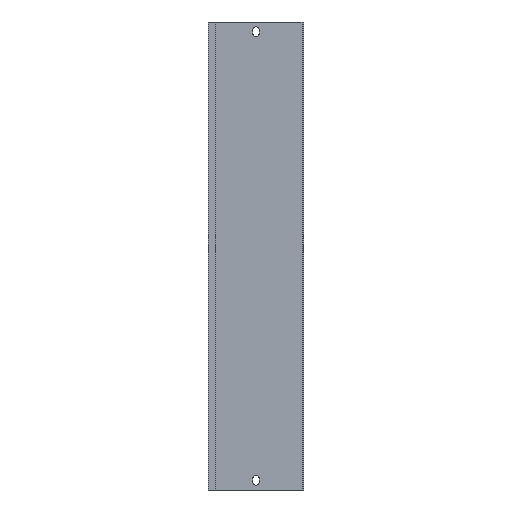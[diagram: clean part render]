
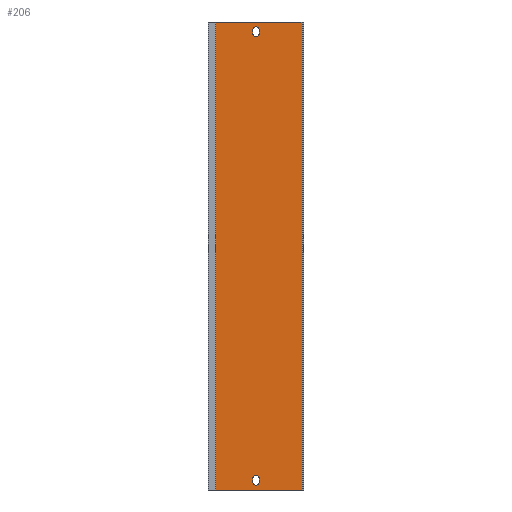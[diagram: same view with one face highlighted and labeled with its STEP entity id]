
A CAD part, front view. The second image highlights one B-rep face of the part: STEP entity #206.
In plain terms, the highlighted planar face has unit normal (0, -1, 0).
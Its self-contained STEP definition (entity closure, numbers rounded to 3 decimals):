
#16 = LINE ( 'NONE', #18, #289 ) ;
#18 = CARTESIAN_POINT ( 'NONE',  ( -8., 11., 0. ) ) ;
#23 = VECTOR ( 'NONE', #702, 1000. ) ;
#26 = CARTESIAN_POINT ( 'NONE',  ( 41., 11., 467.5 ) ) ;
#27 = ORIENTED_EDGE ( 'NONE', *, *, #690, .T. ) ;
#32 = ORIENTED_EDGE ( 'NONE', *, *, #404, .T. ) ;
#38 = CARTESIAN_POINT ( 'NONE',  ( -8., 11., 0. ) ) ;
#46 = DIRECTION ( 'NONE',  ( 0., 1., 0. ) ) ;
#53 = DIRECTION ( 'NONE',  ( 0., 0., 1. ) ) ;
#55 = VERTEX_POINT ( 'NONE', #297 ) ;
#56 = VERTEX_POINT ( 'NONE', #643 ) ;
#57 = DIRECTION ( 'NONE',  ( 0., 0., 1. ) ) ;
#70 = CARTESIAN_POINT ( 'NONE',  ( 41., 11., 464. ) ) ;
#74 = DIRECTION ( 'NONE',  ( 0., 0., 1. ) ) ;
#83 = DIRECTION ( 'NONE',  ( 1., 0., 0. ) ) ;
#91 = EDGE_LOOP ( 'NONE', ( #782, #32, #239, #776, #431, #909, #876, #863 ) ) ;
#92 = VERTEX_POINT ( 'NONE', #652 ) ;
#100 = FACE_BOUND ( 'NONE', #1037, .T. ) ;
#102 = VERTEX_POINT ( 'NONE', #729 ) ;
#103 = DIRECTION ( 'NONE',  ( 0., 1., 0. ) ) ;
#110 = VERTEX_POINT ( 'NONE', #336 ) ;
#122 = CARTESIAN_POINT ( 'NONE',  ( 88.5, 11., 479. ) ) ;
#125 = VECTOR ( 'NONE', #443, 1000. ) ;
#155 = DIRECTION ( 'NONE',  ( 0., 1., 0. ) ) ;
#157 = VERTEX_POINT ( 'NONE', #70 ) ;
#166 = VERTEX_POINT ( 'NONE', #818 ) ;
#172 = CARTESIAN_POINT ( 'NONE',  ( 37.5, 11., 470.5 ) ) ;
#179 = EDGE_CURVE ( 'NONE', #995, #330, #415, .T. ) ;
#187 = DIRECTION ( 'NONE',  ( 0., -1., 0. ) ) ;
#189 = VECTOR ( 'NONE', #57, 1000. ) ;
#199 = CARTESIAN_POINT ( 'NONE',  ( -4.8, 11., 479. ) ) ;
#200 = EDGE_CURVE ( 'NONE', #598, #351, #675, .T. ) ;
#206 = ADVANCED_FACE ( 'NONE', ( #845, #100, #444 ), #764, .F. ) ;
#221 = CARTESIAN_POINT ( 'NONE',  ( 44.5, 11., 8.5 ) ) ;
#227 = ORIENTED_EDGE ( 'NONE', *, *, #488, .T. ) ;
#234 = DIRECTION ( 'NONE',  ( 0., 1., 0. ) ) ;
#239 = ORIENTED_EDGE ( 'NONE', *, *, #915, .T. ) ;
#253 = VECTOR ( 'NONE', #799, 1000. ) ;
#256 = AXIS2_PLACEMENT_3D ( 'NONE', #26, #1011, #691 ) ;
#273 = CARTESIAN_POINT ( 'NONE',  ( -4.8, 11., 0. ) ) ;
#277 = CARTESIAN_POINT ( 'NONE',  ( 88.5, 11., 479. ) ) ;
#279 = LINE ( 'NONE', #938, #1043 ) ;
#285 = LINE ( 'NONE', #305, #23 ) ;
#289 = VECTOR ( 'NONE', #775, 1000. ) ;
#295 = DIRECTION ( 'NONE',  ( -1., 0., 0. ) ) ;
#296 = EDGE_CURVE ( 'NONE', #351, #583, #435, .T. ) ;
#297 = CARTESIAN_POINT ( 'NONE',  ( 88.5, 11., 0. ) ) ;
#304 = CARTESIAN_POINT ( 'NONE',  ( 44.5, 11., 470.5 ) ) ;
#305 = CARTESIAN_POINT ( 'NONE',  ( -8., 11., 479. ) ) ;
#311 = CIRCLE ( 'NONE', #592, 3.5 ) ;
#327 = AXIS2_PLACEMENT_3D ( 'NONE', #481, #46, #471 ) ;
#330 = VERTEX_POINT ( 'NONE', #667 ) ;
#336 = CARTESIAN_POINT ( 'NONE',  ( 86.8, 11., 479. ) ) ;
#340 = CARTESIAN_POINT ( 'NONE',  ( -6.5, 11., 0. ) ) ;
#341 = EDGE_CURVE ( 'NONE', #995, #110, #902, .T. ) ;
#351 = VERTEX_POINT ( 'NONE', #172 ) ;
#353 = CARTESIAN_POINT ( 'NONE',  ( 41., 11., 467.5 ) ) ;
#354 = CARTESIAN_POINT ( 'NONE',  ( 41., 11., 470.5 ) ) ;
#362 = VECTOR ( 'NONE', #656, 1000. ) ;
#368 = DIRECTION ( 'NONE',  ( 0., 0., 1. ) ) ;
#387 = EDGE_LOOP ( 'NONE', ( #485, #227, #27, #1005, #514 ) ) ;
#392 = DIRECTION ( 'NONE',  ( 0., 0., 1. ) ) ;
#397 = ORIENTED_EDGE ( 'NONE', *, *, #296, .F. ) ;
#400 = AXIS2_PLACEMENT_3D ( 'NONE', #461, #234, #566 ) ;
#404 = EDGE_CURVE ( 'NONE', #92, #55, #279, .T. ) ;
#415 = LINE ( 'NONE', #1058, #549 ) ;
#431 = ORIENTED_EDGE ( 'NONE', *, *, #341, .F. ) ;
#434 = VERTEX_POINT ( 'NONE', #442 ) ;
#435 = LINE ( 'NONE', #816, #362 ) ;
#442 = CARTESIAN_POINT ( 'NONE',  ( 37.5, 11., 8.5 ) ) ;
#443 = DIRECTION ( 'NONE',  ( 0., 0., 1. ) ) ;
#444 = FACE_BOUND ( 'NONE', #387, .T. ) ;
#449 = CARTESIAN_POINT ( 'NONE',  ( -6.5, 11., 479. ) ) ;
#461 = CARTESIAN_POINT ( 'NONE',  ( -8., 11., 479. ) ) ;
#471 = DIRECTION ( 'NONE',  ( 0., 0., 1. ) ) ;
#473 = CARTESIAN_POINT ( 'NONE',  ( 37.5, 11., 467.5 ) ) ;
#481 = CARTESIAN_POINT ( 'NONE',  ( 41., 11., 8.5 ) ) ;
#485 = ORIENTED_EDGE ( 'NONE', *, *, #606, .T. ) ;
#488 = EDGE_CURVE ( 'NONE', #102, #434, #936, .T. ) ;
#510 = VERTEX_POINT ( 'NONE', #962 ) ;
#514 = ORIENTED_EDGE ( 'NONE', *, *, #565, .T. ) ;
#517 = EDGE_CURVE ( 'NONE', #510, #598, #709, .T. ) ;
#519 = DIRECTION ( 'NONE',  ( 1., 0., 0. ) ) ;
#524 = DIRECTION ( 'NONE',  ( 0., 0., -1. ) ) ;
#525 = VERTEX_POINT ( 'NONE', #1027 ) ;
#542 = ORIENTED_EDGE ( 'NONE', *, *, #963, .F. ) ;
#549 = VECTOR ( 'NONE', #993, 1000. ) ;
#555 = LINE ( 'NONE', #38, #722 ) ;
#565 = EDGE_CURVE ( 'NONE', #166, #56, #957, .T. ) ;
#566 = DIRECTION ( 'NONE',  ( 0., 0., 1. ) ) ;
#573 = VECTOR ( 'NONE', #83, 1000. ) ;
#583 = VERTEX_POINT ( 'NONE', #473 ) ;
#592 = AXIS2_PLACEMENT_3D ( 'NONE', #353, #1015, #767 ) ;
#598 = VERTEX_POINT ( 'NONE', #881 ) ;
#606 = EDGE_CURVE ( 'NONE', #56, #102, #618, .T. ) ;
#618 = CIRCLE ( 'NONE', #327, 3.5 ) ;
#634 = EDGE_CURVE ( 'NONE', #969, #713, #555, .T. ) ;
#640 = VECTOR ( 'NONE', #368, 1000. ) ;
#643 = CARTESIAN_POINT ( 'NONE',  ( 44.5, 11., 8.5 ) ) ;
#651 = CARTESIAN_POINT ( 'NONE',  ( 41., 11., 11.5 ) ) ;
#652 = CARTESIAN_POINT ( 'NONE',  ( 86.8, 11., 0. ) ) ;
#656 = DIRECTION ( 'NONE',  ( 0., 0., -1. ) ) ;
#657 = CIRCLE ( 'NONE', #772, 3.5 ) ;
#667 = CARTESIAN_POINT ( 'NONE',  ( -6.5, 11., 479. ) ) ;
#675 = CIRCLE ( 'NONE', #719, 3.5 ) ;
#690 = EDGE_CURVE ( 'NONE', #434, #525, #864, .T. ) ;
#691 = DIRECTION ( 'NONE',  ( 0., 0., -1. ) ) ;
#699 = VECTOR ( 'NONE', #53, 1000. ) ;
#702 = DIRECTION ( 'NONE',  ( 1., 0., 0. ) ) ;
#709 = LINE ( 'NONE', #304, #189 ) ;
#713 = VERTEX_POINT ( 'NONE', #340 ) ;
#719 = AXIS2_PLACEMENT_3D ( 'NONE', #354, #187, #524 ) ;
#722 = VECTOR ( 'NONE', #295, 1000. ) ;
#729 = CARTESIAN_POINT ( 'NONE',  ( 41., 11., 5. ) ) ;
#751 = ORIENTED_EDGE ( 'NONE', *, *, #906, .F. ) ;
#752 = ORIENTED_EDGE ( 'NONE', *, *, #200, .F. ) ;
#758 = LINE ( 'NONE', #449, #125 ) ;
#761 = EDGE_CURVE ( 'NONE', #525, #166, #657, .T. ) ;
#764 = PLANE ( 'NONE',  #400 ) ;
#767 = DIRECTION ( 'NONE',  ( 0., 0., -1. ) ) ;
#772 = AXIS2_PLACEMENT_3D ( 'NONE', #651, #155, #74 ) ;
#775 = DIRECTION ( 'NONE',  ( 1., 0., 0. ) ) ;
#776 = ORIENTED_EDGE ( 'NONE', *, *, #1013, .F. ) ;
#782 = ORIENTED_EDGE ( 'NONE', *, *, #935, .T. ) ;
#799 = DIRECTION ( 'NONE',  ( 0., 0., -1. ) ) ;
#816 = CARTESIAN_POINT ( 'NONE',  ( 37.5, 11., 470.5 ) ) ;
#818 = CARTESIAN_POINT ( 'NONE',  ( 44.5, 11., 11.5 ) ) ;
#836 = CARTESIAN_POINT ( 'NONE',  ( -8., 11., 479. ) ) ;
#845 = FACE_OUTER_BOUND ( 'NONE', #91, .T. ) ;
#846 = CARTESIAN_POINT ( 'NONE',  ( 41., 11., 8.5 ) ) ;
#849 = EDGE_CURVE ( 'NONE', #713, #330, #758, .T. ) ;
#854 = LINE ( 'NONE', #277, #640 ) ;
#863 = ORIENTED_EDGE ( 'NONE', *, *, #634, .F. ) ;
#864 = LINE ( 'NONE', #941, #699 ) ;
#876 = ORIENTED_EDGE ( 'NONE', *, *, #849, .F. ) ;
#881 = CARTESIAN_POINT ( 'NONE',  ( 44.5, 11., 470.5 ) ) ;
#902 = LINE ( 'NONE', #836, #573 ) ;
#906 = EDGE_CURVE ( 'NONE', #157, #510, #311, .T. ) ;
#909 = ORIENTED_EDGE ( 'NONE', *, *, #179, .T. ) ;
#915 = EDGE_CURVE ( 'NONE', #55, #1041, #854, .T. ) ;
#935 = EDGE_CURVE ( 'NONE', #969, #92, #16, .T. ) ;
#936 = CIRCLE ( 'NONE', #1057, 3.5 ) ;
#938 = CARTESIAN_POINT ( 'NONE',  ( 86.8, 11., 0. ) ) ;
#941 = CARTESIAN_POINT ( 'NONE',  ( 37.5, 11., 8.5 ) ) ;
#957 = LINE ( 'NONE', #221, #253 ) ;
#962 = CARTESIAN_POINT ( 'NONE',  ( 44.5, 11., 467.5 ) ) ;
#963 = EDGE_CURVE ( 'NONE', #583, #157, #978, .T. ) ;
#969 = VERTEX_POINT ( 'NONE', #273 ) ;
#978 = CIRCLE ( 'NONE', #256, 3.5 ) ;
#993 = DIRECTION ( 'NONE',  ( -1., 0., 0. ) ) ;
#995 = VERTEX_POINT ( 'NONE', #199 ) ;
#1000 = ORIENTED_EDGE ( 'NONE', *, *, #517, .F. ) ;
#1005 = ORIENTED_EDGE ( 'NONE', *, *, #761, .T. ) ;
#1011 = DIRECTION ( 'NONE',  ( 0., -1., 0. ) ) ;
#1013 = EDGE_CURVE ( 'NONE', #110, #1041, #285, .T. ) ;
#1015 = DIRECTION ( 'NONE',  ( 0., -1., 0. ) ) ;
#1027 = CARTESIAN_POINT ( 'NONE',  ( 37.5, 11., 11.5 ) ) ;
#1037 = EDGE_LOOP ( 'NONE', ( #397, #752, #1000, #751, #542 ) ) ;
#1041 = VERTEX_POINT ( 'NONE', #122 ) ;
#1043 = VECTOR ( 'NONE', #519, 1000. ) ;
#1057 = AXIS2_PLACEMENT_3D ( 'NONE', #846, #103, #392 ) ;
#1058 = CARTESIAN_POINT ( 'NONE',  ( -4.8, 11., 479. ) ) ;
